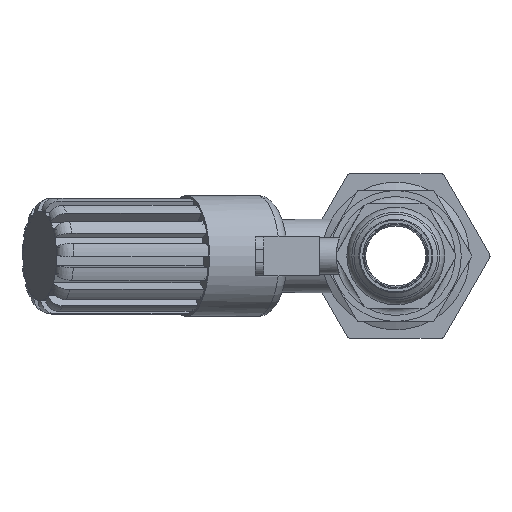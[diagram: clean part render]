
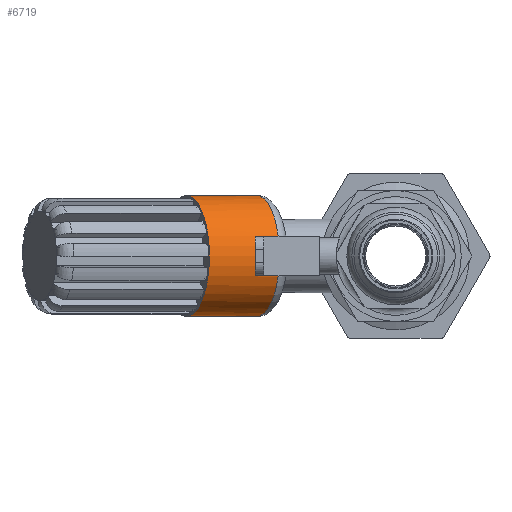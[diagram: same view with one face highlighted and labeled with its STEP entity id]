
A CAD part, left-side view. The second image highlights one B-rep face of the part: STEP entity #6719.
In plain terms, the highlighted cylindrical face has radius 14.605 mm (diameter 29.21 mm), a full revolution.
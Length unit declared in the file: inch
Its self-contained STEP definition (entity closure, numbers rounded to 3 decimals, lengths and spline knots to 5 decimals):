
#340=LINE('',#10581,#871);
#341=LINE('',#10585,#872);
#342=LINE('',#10589,#873);
#871=VECTOR('',#8520,0.575);
#872=VECTOR('',#8523,0.3937);
#873=VECTOR('',#8526,0.3937);
#1272=CYLINDRICAL_SURFACE('',#7394,0.575);
#1504=FACE_OUTER_BOUND('',#1875,.T.);
#1875=EDGE_LOOP('',(#4709,#4710,#4711,#4712,#4713,#4714,#4715,#4716,#4717));
#2285=CIRCLE('',#7389,0.575);
#2289=CIRCLE('',#7393,0.575);
#2290=CIRCLE('',#7395,0.575);
#2291=CIRCLE('',#7396,0.575);
#2292=CIRCLE('',#7397,0.575);
#2709=VERTEX_POINT('',#10570);
#2710=VERTEX_POINT('',#10571);
#2713=VERTEX_POINT('',#10580);
#2714=VERTEX_POINT('',#10582);
#2715=VERTEX_POINT('',#10584);
#2716=VERTEX_POINT('',#10586);
#2717=VERTEX_POINT('',#10588);
#3449=EDGE_CURVE('',#2709,#2710,#2285,.T.);
#3453=EDGE_CURVE('',#2710,#2709,#2289,.T.);
#3454=EDGE_CURVE('',#2709,#2713,#340,.T.);
#3455=EDGE_CURVE('',#2713,#2714,#2290,.T.);
#3456=EDGE_CURVE('',#2715,#2714,#341,.T.);
#3457=EDGE_CURVE('',#2716,#2715,#2291,.T.);
#3458=EDGE_CURVE('',#2717,#2716,#342,.T.);
#3459=EDGE_CURVE('',#2717,#2713,#2292,.T.);
#4709=ORIENTED_EDGE('',*,*,#3449,.F.);
#4710=ORIENTED_EDGE('',*,*,#3454,.T.);
#4711=ORIENTED_EDGE('',*,*,#3455,.T.);
#4712=ORIENTED_EDGE('',*,*,#3456,.F.);
#4713=ORIENTED_EDGE('',*,*,#3457,.F.);
#4714=ORIENTED_EDGE('',*,*,#3458,.F.);
#4715=ORIENTED_EDGE('',*,*,#3459,.T.);
#4716=ORIENTED_EDGE('',*,*,#3454,.F.);
#4717=ORIENTED_EDGE('',*,*,#3453,.F.);
#6719=ADVANCED_FACE('',(#1504),#1272,.T.);
#7389=AXIS2_PLACEMENT_3D('',#10572,#8508,#8509);
#7393=AXIS2_PLACEMENT_3D('',#10578,#8516,#8517);
#7394=AXIS2_PLACEMENT_3D('',#10579,#8518,#8519);
#7395=AXIS2_PLACEMENT_3D('',#10583,#8521,#8522);
#7396=AXIS2_PLACEMENT_3D('',#10587,#8524,#8525);
#7397=AXIS2_PLACEMENT_3D('',#10590,#8527,#8528);
#8508=DIRECTION('center_axis',(-0.375,0.927,0.));
#8509=DIRECTION('ref_axis',(-0.927,-0.375,0.));
#8516=DIRECTION('center_axis',(-0.375,0.927,0.));
#8517=DIRECTION('ref_axis',(-0.927,-0.375,0.));
#8518=DIRECTION('center_axis',(-0.375,0.927,0.));
#8519=DIRECTION('ref_axis',(-0.927,-0.375,0.));
#8520=DIRECTION('',(0.375,-0.927,0.));
#8521=DIRECTION('center_axis',(-0.375,0.927,0.));
#8522=DIRECTION('ref_axis',(-0.927,-0.375,0.));
#8523=DIRECTION('',(0.375,-0.927,0.));
#8524=DIRECTION('center_axis',(0.375,-0.927,0.));
#8525=DIRECTION('ref_axis',(-0.927,-0.375,0.));
#8526=DIRECTION('',(-0.375,0.927,0.));
#8527=DIRECTION('center_axis',(-0.375,0.927,0.));
#8528=DIRECTION('ref_axis',(-0.927,-0.375,0.));
#10570=CARTESIAN_POINT('',(1.06523,-1.10114,0.));
#10571=CARTESIAN_POINT('',(0.5321,-1.31654,0.575));
#10572=CARTESIAN_POINT('Origin',(0.5321,-1.31654,0.));
#10578=CARTESIAN_POINT('Origin',(0.5321,-1.31654,0.));
#10579=CARTESIAN_POINT('Origin',(0.80052,-1.98091,0.));
#10580=CARTESIAN_POINT('',(1.33366,-1.76552,0.));
#10581=CARTESIAN_POINT('',(1.33366,-1.76552,0.));
#10582=CARTESIAN_POINT('',(0.29268,-2.18609,-0.175));
#10583=CARTESIAN_POINT('Origin',(0.80052,-1.98091,0.));
#10584=CARTESIAN_POINT('',(0.26459,-2.11656,-0.175));
#10585=CARTESIAN_POINT('',(0.29268,-2.18609,-0.175));
#10586=CARTESIAN_POINT('',(0.26459,-2.11656,0.175));
#10587=CARTESIAN_POINT('Origin',(0.77243,-1.91138,0.));
#10588=CARTESIAN_POINT('',(0.29268,-2.18609,0.175));
#10589=CARTESIAN_POINT('',(0.29268,-2.18609,0.175));
#10590=CARTESIAN_POINT('Origin',(0.80052,-1.98091,0.));
